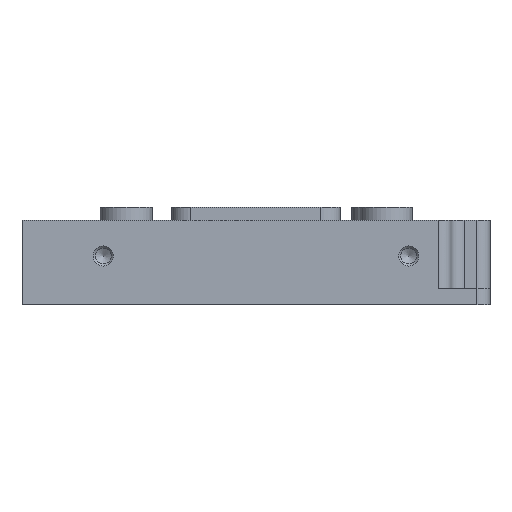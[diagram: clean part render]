
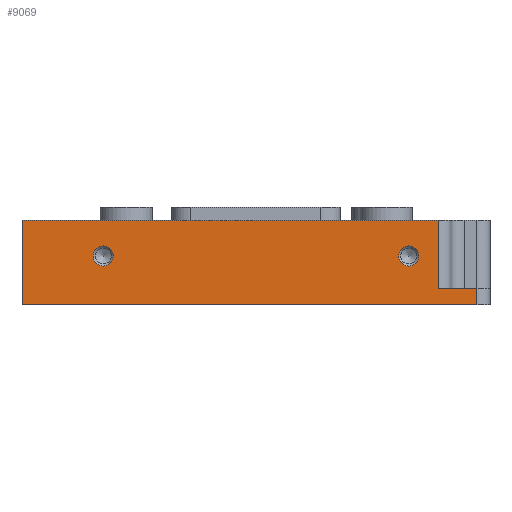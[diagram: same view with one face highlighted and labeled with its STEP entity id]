
A CAD part, left-side view. The second image highlights one B-rep face of the part: STEP entity #9069.
In plain terms, the highlighted planar face has unit normal (-1, 0, 0).
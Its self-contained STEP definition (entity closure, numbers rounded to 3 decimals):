
#121=CIRCLE('',#9471,3.1);
#124=CIRCLE('',#9477,3.1);
#393=FACE_BOUND('',#3064,.T.);
#394=FACE_BOUND('',#3065,.T.);
#840=LINE('',#17023,#1682);
#842=LINE('',#17029,#1684);
#843=LINE('',#17031,#1685);
#844=LINE('',#17033,#1686);
#845=LINE('',#17035,#1687);
#846=LINE('',#17036,#1688);
#1682=VECTOR('',#10633,10.);
#1684=VECTOR('',#10639,10.);
#1685=VECTOR('',#10640,10.);
#1686=VECTOR('',#10641,10.);
#1687=VECTOR('',#10642,10.);
#1688=VECTOR('',#10643,10.);
#2530=FACE_OUTER_BOUND('',#3063,.T.);
#3063=EDGE_LOOP('',(#7210,#7211,#7212,#7213,#7214,#7215));
#3064=EDGE_LOOP('',(#7216));
#3065=EDGE_LOOP('',(#7217));
#4086=VERTEX_POINT('',#16972);
#4090=VERTEX_POINT('',#16985);
#4101=VERTEX_POINT('',#17020);
#4102=VERTEX_POINT('',#17022);
#4104=VERTEX_POINT('',#17028);
#4105=VERTEX_POINT('',#17030);
#4106=VERTEX_POINT('',#17032);
#4107=VERTEX_POINT('',#17034);
#5192=EDGE_CURVE('',#4086,#4086,#121,.T.);
#5198=EDGE_CURVE('',#4090,#4090,#124,.T.);
#5215=EDGE_CURVE('',#4101,#4102,#840,.T.);
#5218=EDGE_CURVE('',#4102,#4104,#842,.T.);
#5219=EDGE_CURVE('',#4101,#4105,#843,.T.);
#5220=EDGE_CURVE('',#4106,#4105,#844,.T.);
#5221=EDGE_CURVE('',#4106,#4107,#845,.T.);
#5222=EDGE_CURVE('',#4104,#4107,#846,.T.);
#7210=ORIENTED_EDGE('',*,*,#5218,.F.);
#7211=ORIENTED_EDGE('',*,*,#5215,.F.);
#7212=ORIENTED_EDGE('',*,*,#5219,.T.);
#7213=ORIENTED_EDGE('',*,*,#5220,.F.);
#7214=ORIENTED_EDGE('',*,*,#5221,.T.);
#7215=ORIENTED_EDGE('',*,*,#5222,.F.);
#7216=ORIENTED_EDGE('',*,*,#5192,.T.);
#7217=ORIENTED_EDGE('',*,*,#5198,.T.);
#8641=PLANE('',#9495);
#9069=ADVANCED_FACE('',(#2530,#393,#394),#8641,.T.);
#9471=AXIS2_PLACEMENT_3D('',#16973,#10576,#10577);
#9477=AXIS2_PLACEMENT_3D('',#16986,#10591,#10592);
#9495=AXIS2_PLACEMENT_3D('',#17027,#10637,#10638);
#10576=DIRECTION('center_axis',(1.,0.,0.));
#10577=DIRECTION('ref_axis',(0.,0.,-1.));
#10591=DIRECTION('center_axis',(1.,0.,0.));
#10592=DIRECTION('ref_axis',(0.,0.,-1.));
#10633=DIRECTION('',(0.,0.,-1.));
#10637=DIRECTION('center_axis',(-1.,0.,0.));
#10638=DIRECTION('ref_axis',(0.,-1.,0.));
#10639=DIRECTION('',(0.,-1.,0.));
#10640=DIRECTION('',(0.,1.,0.));
#10641=DIRECTION('',(0.,0.,1.));
#10642=DIRECTION('',(0.,-1.,0.));
#10643=DIRECTION('',(0.,0.,-1.));
#16972=CARTESIAN_POINT('',(-75.,-47.,18.1));
#16973=CARTESIAN_POINT('Origin',(-75.,-47.,15.));
#16985=CARTESIAN_POINT('',(-75.,47.,18.1));
#16986=CARTESIAN_POINT('Origin',(-75.,47.,15.));
#17020=CARTESIAN_POINT('',(-75.,-56.,26.));
#17022=CARTESIAN_POINT('',(-75.,-56.,5.));
#17023=CARTESIAN_POINT('',(-75.,-56.,0.));
#17027=CARTESIAN_POINT('Origin',(-75.,60.,0.));
#17028=CARTESIAN_POINT('',(-75.,-68.,5.));
#17029=CARTESIAN_POINT('',(-75.,-60.,5.));
#17030=CARTESIAN_POINT('',(-75.,72.,26.));
#17031=CARTESIAN_POINT('',(-75.,30.,26.));
#17032=CARTESIAN_POINT('',(-75.,72.,0.));
#17033=CARTESIAN_POINT('',(-75.,72.,0.));
#17034=CARTESIAN_POINT('',(-75.,-68.,0.));
#17035=CARTESIAN_POINT('',(-75.,72.,0.));
#17036=CARTESIAN_POINT('',(-75.,-68.,0.));
